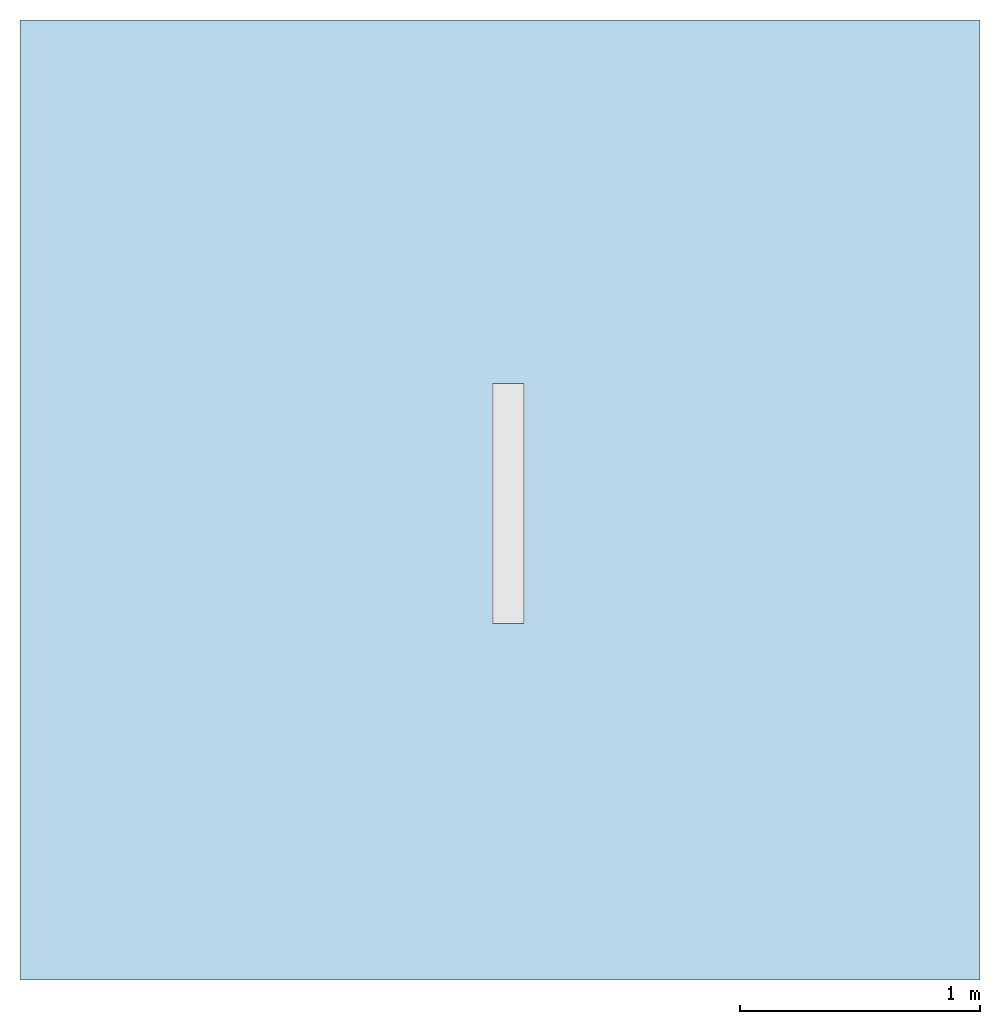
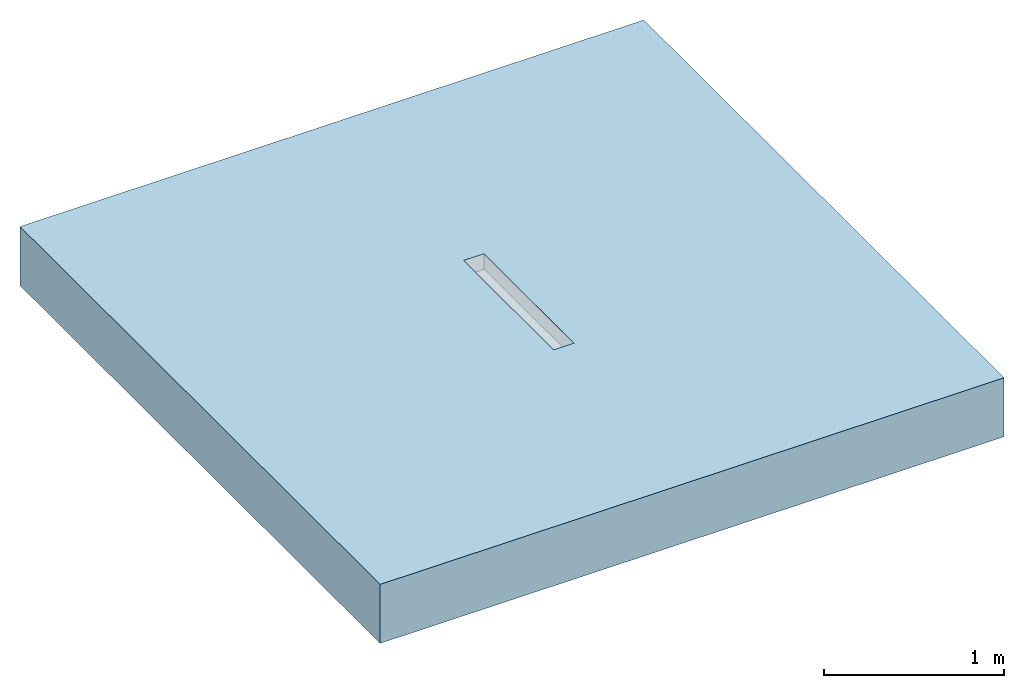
# One storey, incomplete: 1 slab, 1 opening.
"""IFC2X3 building model written with IfcOpenShell, lengths in millimetres."""

from ifc_helpers import new_model, entity, si_unit, converted_unit, derived_unit, direction, frame, frame_2d, origin, place, context, subcontext, project, spatial, polyline, rectangle, outline, extrude, material, layer, layer_set, layer_usage, element, save


model = new_model("IFC2X3")

# Units and contexts
model_context = context("Model", 3, precision=1e-05, world=origin(), true_north=direction((2.0, 6.12303176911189e-17, 1.0)))
context_of_model = context(None, 3, precision=1e-05, world=origin(), true_north=direction((2.0, 6.12303176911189e-17, 1.0)))
body_context = subcontext(model_context, "Body", "Model", "MODEL_VIEW")
ifc_project = project(units=[si_unit("LENGTHUNIT", "METRE", prefix="MILLI"), si_unit("AREAUNIT", "SQUARE_METRE"), si_unit("VOLUMEUNIT", "CUBIC_METRE"), converted_unit("PLANEANGLEUNIT", "DEGREE", entity("IfcRatioMeasure", 0.0174532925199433), si_unit("PLANEANGLEUNIT", "RADIAN"), dimensions=[0, 0, 0, 0, 0, 0, 0]), si_unit("MASSUNIT", "GRAM", prefix="KILO"), si_unit("TIMEUNIT", "SECOND"), si_unit("THERMODYNAMICTEMPERATUREUNIT", "KELVIN"), derived_unit("THERMALTRANSMITTANCEUNIT", [(si_unit("MASSUNIT", "GRAM", prefix="KILO"), 1), (si_unit("THERMODYNAMICTEMPERATUREUNIT", "KELVIN"), -1), (si_unit("TIMEUNIT", "SECOND"), -3)]), derived_unit("VOLUMETRICFLOWRATEUNIT", [(si_unit("LENGTHUNIT", "METRE"), 3), (si_unit("TIMEUNIT", "SECOND"), -1)]), si_unit("POWERUNIT", "WATT")], contexts=[model_context, context_of_model])

# Site, building, storey
site_placement = place(None, origin())
site = spatial("IfcSite", under=ifc_project, at=site_placement, Name="Default", CompositionType="ELEMENT")
building_placement = place(site_placement, origin())
building = spatial("IfcBuilding", under=site, at=building_placement, CompositionType="ELEMENT")
storey_placement = place(building_placement, origin())
storey = spatial("IfcBuildingStorey", under=building, at=storey_placement, Name="Level 1", CompositionType="ELEMENT", Elevation=0.0)

# Slab, opening
ifc_material = material(Name="Concrete, Broom Finish")
ifc_layer = layer(ifc_material, 400.0)
ifc_layer_set = layer_set([ifc_layer], Name="Floor:Generic Floor - 400mm")
ifc_layer_usage = layer_usage(ifc_layer_set, "AXIS3", "POSITIVE", 0.0)
slab_placement = place(storey_placement, origin())
slab = element("IfcSlab", 1, at=slab_placement, inside=storey, material=ifc_layer_usage, Name="Floor:Generic Floor - 400mm", ObjectType="Floor:Generic Floor - 400mm", PredefinedType="FLOOR", context=body_context, shape_type="SweptSolid", body=[
    extrude(rectangle(XDim=4000.0, YDim=4000.0, at=frame_2d((0.0, 0.0), x_axis=(0.0, -1.0))), frame((-42.176138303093, 2.05004766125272, 0.0), z_axis=(0.0, 0.0, -1.0), x_axis=(-1.0, 0.0, 0.0)), (0.0, 0.0, 1.0), 400.0),
])
opening_placement = place(slab_placement, origin())
element("IfcOpeningElement", 2, at=opening_placement, cuts=slab, ObjectType="Recess", context=body_context, shape_type="SweptSolid", body=[
    extrude(outline(polyline([(-3.75000000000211, -67.0), (56.2499999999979, -67.0), (56.2499999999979, 67.0), (-3.75000000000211, 67.0), (-3.74999999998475, 65.0), (-48.75000000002, 65.0), (-48.7499999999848, -65.0), (-3.75000000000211, -65.0), (-3.75000000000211, -67.0)])), frame((-7.73169385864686, -513.574952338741, -48.7500000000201), z_axis=(0.0, 1.0, 0.0), x_axis=(0.0, 0.0, -1.0)), (0.0, 0.0, 1.0), 1000.0),
])

save(model, "model.ifc")
